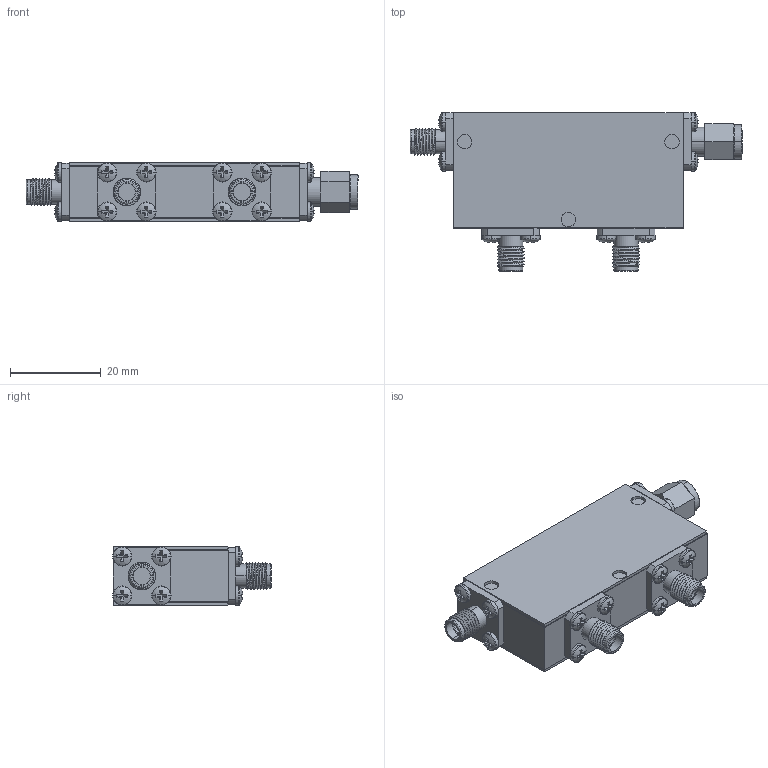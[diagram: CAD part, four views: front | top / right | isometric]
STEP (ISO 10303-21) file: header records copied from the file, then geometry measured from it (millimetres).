
FILE_DESCRIPTION (( 'STEP AP214' ), '1' );
FILE_NAME ('Package 14-2 Circ FMFF - Cryo Unshielded.STEP', '2023-12-20T00:09:19', ( '' ), ( '' ), 'SwSTEP 2.0', 'SolidWorks 2016', '' );
FILE_SCHEMA (( 'AUTOMOTIVE_DESIGN' ));
Length unit declared in the file: inch
Products named in the file (6): Package Size 14; Package 14-2 Circ FMFF - Cryo Unshielded; Delta SMA-Male; Delta SMA-Female 0.500 flange Threaded; WR049; pan cross head_ai_CR-PHMS 0.086-56x0.125x0.125-N
Assembly tree (22 placements, depth 2):
  Package 14-2 Circ FMFF - Cryo Unshielded
    Delta SMA-Female 0.500 flange Threaded  x3
    pan cross head_ai_CR-PHMS 0.086-56x0.125x0.125-N  x16
    Package Size 14
    WR049
    Delta SMA-Male
Bounding box: 73.2 x 35.01 x 12.88 mm (x, y, z)
Volume: 18140.6 mm3; surface area: 14562.9 mm2
Topology: 22 solids, 22 shells, 576 faces, 1319 edges, 815 vertices
Faces by surface type: plane 313, cylinder 178, torus 44, sphere 32, bspline 9
Entity records: 5809 total; most frequent: CARTESIAN_POINT 1539, DIRECTION 915, ORIENTED_EDGE 758, EDGE_CURVE 379, AXIS2_PLACEMENT_3D 369, VERTEX_POINT 243, EDGE_LOOP 208, CIRCLE 194
